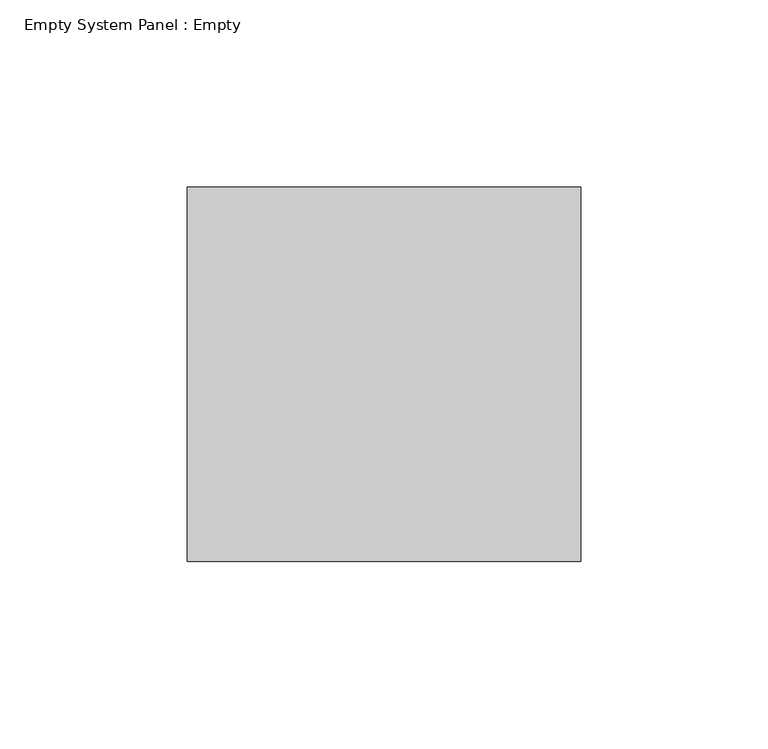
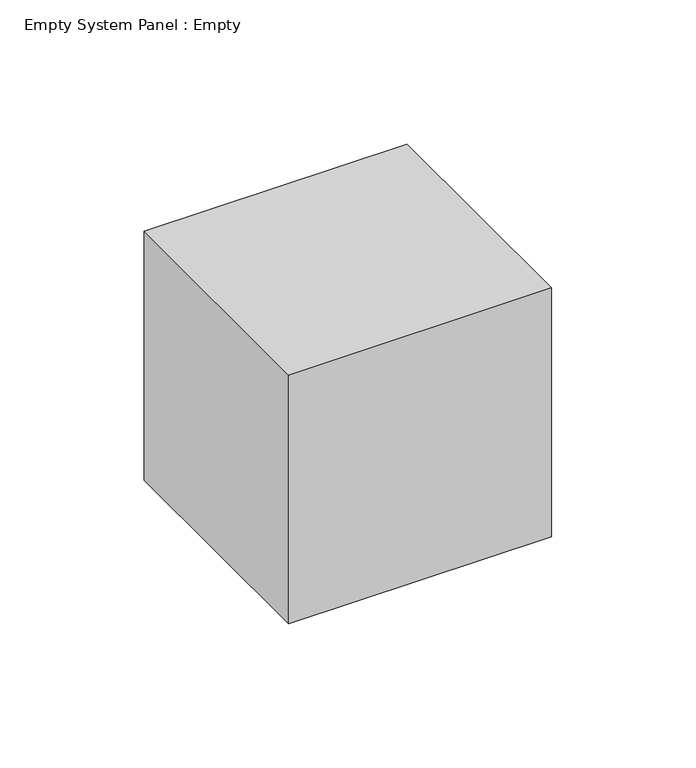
"""IFC4 building model written with IfcOpenShell, lengths in millimetres: plate geometry, Empty System Panel : Empty."""

from ifc_helpers import new_model, si_unit, origin, origin_with_axes, place, context, project, spatial, polyline, outline, extrude, source, transform, mapped, element, save


def empty_system_panel_empty_2f71b3a5(model_context):
    return source(origin(), model_context, "Body", "SweptSolid", [
        extrude(outline(polyline([(52.5000002, 50.0), (-52.5000002, 50.0), (-52.5000002, 150.0), (52.5000002, 150.0), (52.5000002, 50.0)])), origin_with_axes(), (0.0, 0.0, 1.0), 105.0),
    ])


if __name__ == "__main__":
    model = new_model("IFC4")
    model_context = context("Model", 3, world=origin())
    ifc_project = project(units=[si_unit("LENGTHUNIT", "METRE", prefix="MILLI")], contexts=[model_context])
    site = spatial("IfcSite", under=ifc_project)
    building = spatial("IfcBuilding", under=site)
    placement = place(None, origin())
    empty_system_panel_empty_shape = empty_system_panel_empty_2f71b3a5(model_context)
    element("IfcPlate", 1, ObjectType="Empty System Panel : Empty", at=placement, inside=building, context=model_context, shape_type="MappedRepresentation", body=[
        mapped(empty_system_panel_empty_shape, transform((0.0, 0.0, 0.0), x_axis=(1.0, 0.0, 0.0), y_axis=(0.0, 1.0, 0.0), z_axis=(0.0, 0.0, 1.0))),
    ])
    save(model, "model.ifc")
